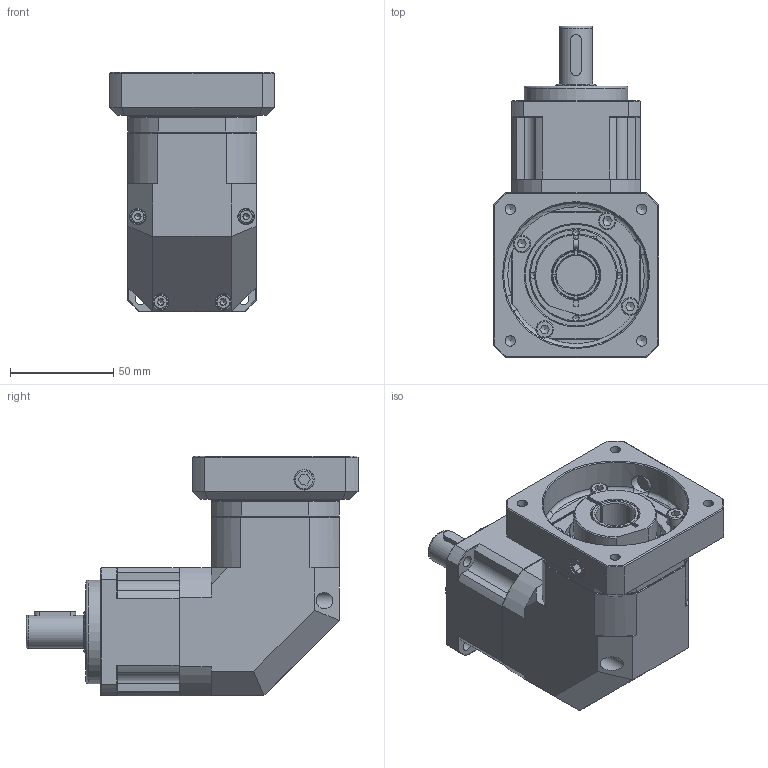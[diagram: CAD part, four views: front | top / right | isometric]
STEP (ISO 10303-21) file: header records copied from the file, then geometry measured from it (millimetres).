
FILE_DESCRIPTION((''),'2;1');
FILE_NAME('C:\Work\감속기 카다로그 도면\ATG Reducer(홈페이지)\PBL-H\STP\PBL62-H-1 (S19).stp','2014-05-27T14:48:16',('young'),(''),'Autodesk Inventor 2012','Autodesk Inventor 2012','');
FILE_SCHEMA(('AUTOMOTIVE_DESIGN { 1 0 10303 214 1 1 1 1 }'));
Length unit declared in the file: millimetre
Products named in the file (1): PBL62-H-1 (S19)
Bounding box: 80 x 160.5 x 116 mm (x, y, z)
Volume: 457372.5 mm3; surface area: 122013.1 mm2
Topology: 22 solids, 22 shells, 649 faces, 1634 edges, 1065 vertices
Faces by surface type: plane 355, cylinder 151, cone 100, torus 23, bspline 20
Full cylindrical faces by diameter (mm): 3 x4, 3.3 x4, 4 x5, 4.2 x6, 4.5 x4, 5 x13, 5.5 x13, 7 x5, 8 x4, 8.5 x4, 9.5 x2, 16 x1, 17 x1, 19.2 x1, 19.8 x1, 20 x2, 23.5 x1, 24.8 x1, 30 x2, 34 x1, 35 x6, 40 x1, 44 x2, 48 x2, 50 x5, 52 x1, 70 x1
Entity records: 24301 total; most frequent: CARTESIAN_POINT 9829, DIRECTION 2886, ORIENTED_EDGE 2814, EDGE_CURVE 1407, AXIS2_PLACEMENT_3D 1106, VERTEX_POINT 1006, EDGE_LOOP 905, VECTOR 674
